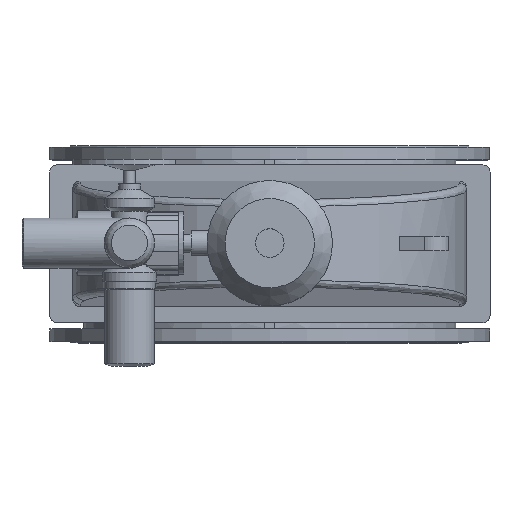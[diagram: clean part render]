
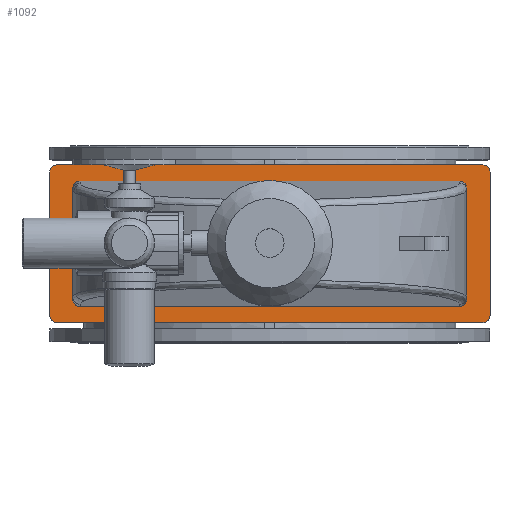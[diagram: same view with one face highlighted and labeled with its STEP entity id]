
A CAD part, top view. The second image highlights one B-rep face of the part: STEP entity #1092.
In plain terms, the highlighted planar face has unit normal (0, 0, 1).
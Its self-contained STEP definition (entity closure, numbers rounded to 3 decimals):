
#1092=ADVANCED_FACE('',(#4834,#4836),#4838,.T.);
#4834=FACE_BOUND('',#4835,.T.);
#4835=EDGE_LOOP('',(#9398,#9399,#9400,#9401,#9402,#9403,#9404,#9405));
#4836=FACE_BOUND('',#4837,.T.);
#4837=EDGE_LOOP('',(#9406,#9407,#9408,#9409,#9410,#9411,#9412,#9413));
#4838=PLANE('',#4839);
#4839=AXIS2_PLACEMENT_3D('',#4840,#4841,#4842);
#4840=CARTESIAN_POINT('',(0.,0.,1086.));
#4841=DIRECTION('',(0.,-0.,1.));
#4842=DIRECTION('',(0.,1.,0.));
#9398=ORIENTED_EDGE('',*,*,#10769,.F.);
#9399=ORIENTED_EDGE('',*,*,#10770,.T.);
#9400=ORIENTED_EDGE('',*,*,#10771,.F.);
#9401=ORIENTED_EDGE('',*,*,#10772,.T.);
#9402=ORIENTED_EDGE('',*,*,#10773,.F.);
#9403=ORIENTED_EDGE('',*,*,#10774,.T.);
#9404=ORIENTED_EDGE('',*,*,#10775,.F.);
#9405=ORIENTED_EDGE('',*,*,#10776,.T.);
#9406=ORIENTED_EDGE('',*,*,#10767,.F.);
#9407=ORIENTED_EDGE('',*,*,#10766,.F.);
#9408=ORIENTED_EDGE('',*,*,#10768,.F.);
#9409=ORIENTED_EDGE('',*,*,#10743,.F.);
#9410=ORIENTED_EDGE('',*,*,#10777,.F.);
#9411=ORIENTED_EDGE('',*,*,#10778,.F.);
#9412=ORIENTED_EDGE('',*,*,#10779,.F.);
#9413=ORIENTED_EDGE('',*,*,#10736,.F.);
#10736=EDGE_CURVE('',#11692,#11694,#11695,.T.);
#10743=EDGE_CURVE('',#11704,#11702,#11706,.T.);
#10766=EDGE_CURVE('',#11741,#11739,#11743,.T.);
#10767=EDGE_CURVE('',#11739,#11692,#11744,.F.);
#10768=EDGE_CURVE('',#11702,#11741,#11745,.T.);
#10769=EDGE_CURVE('',#11746,#11747,#11748,.F.);
#10770=EDGE_CURVE('',#11746,#11749,#11750,.T.);
#10771=EDGE_CURVE('',#11751,#11749,#11752,.F.);
#10772=EDGE_CURVE('',#11751,#11753,#11754,.T.);
#10773=EDGE_CURVE('',#11755,#11753,#11756,.F.);
#10774=EDGE_CURVE('',#11755,#11757,#11758,.T.);
#10775=EDGE_CURVE('',#11759,#11757,#11760,.F.);
#10776=EDGE_CURVE('',#11759,#11747,#11761,.T.);
#10777=EDGE_CURVE('',#11762,#11704,#11763,.F.);
#10778=EDGE_CURVE('',#11764,#11762,#11765,.T.);
#10779=EDGE_CURVE('',#11694,#11764,#11766,.T.);
#11692=VERTEX_POINT('',#14588);
#11694=VERTEX_POINT('',#14592);
#11695=LINE('',#14593,#14594);
#11702=VERTEX_POINT('',#14613);
#11704=VERTEX_POINT('',#14617);
#11706=LINE('',#14621,#14622);
#11739=VERTEX_POINT('',#14704);
#11741=VERTEX_POINT('',#14708);
#11743=LINE('',#14712,#14713);
#11744=(BOUNDED_CURVE()B_SPLINE_CURVE(3,
(#14715,#14716,#14717,#14718),
.UNSPECIFIED.,.F.,.F.)B_SPLINE_CURVE_WITH_KNOTS((4,4),
(0.,1.),
.UNSPECIFIED.)CURVE()GEOMETRIC_REPRESENTATION_ITEM()RATIONAL_B_SPLINE_CURVE((1.,
0.805,0.805,1.))REPRESENTATION_ITEM(''));
#11745=(BOUNDED_CURVE()B_SPLINE_CURVE(3,
(#14719,#14720,#14721,#14722),
.UNSPECIFIED.,.F.,.F.)B_SPLINE_CURVE_WITH_KNOTS((4,4),
(0.,1.),
.UNSPECIFIED.)CURVE()GEOMETRIC_REPRESENTATION_ITEM()RATIONAL_B_SPLINE_CURVE((1.,
0.805,0.805,1.))REPRESENTATION_ITEM(''));
#11746=VERTEX_POINT('',#14723);
#11747=VERTEX_POINT('',#14724);
#11748=CIRCLE('',#14725,20.);
#11749=VERTEX_POINT('',#14729);
#11750=LINE('',#14730,#14731);
#11751=VERTEX_POINT('',#14733);
#11752=CIRCLE('',#14734,20.);
#11753=VERTEX_POINT('',#14738);
#11754=LINE('',#14739,#14740);
#11755=VERTEX_POINT('',#14742);
#11756=CIRCLE('',#14743,20.);
#11757=VERTEX_POINT('',#14747);
#11758=LINE('',#14748,#14749);
#11759=VERTEX_POINT('',#14751);
#11760=CIRCLE('',#14752,20.);
#11761=LINE('',#14756,#14757);
#11762=VERTEX_POINT('',#14759);
#11763=(BOUNDED_CURVE()B_SPLINE_CURVE(3,
(#14760,#14761,#14762,#14763),
.UNSPECIFIED.,.F.,.F.)B_SPLINE_CURVE_WITH_KNOTS((4,4),
(0.,1.),
.UNSPECIFIED.)CURVE()GEOMETRIC_REPRESENTATION_ITEM()RATIONAL_B_SPLINE_CURVE((1.,
0.805,0.805,1.))REPRESENTATION_ITEM(''));
#11764=VERTEX_POINT('',#14764);
#11765=LINE('',#14765,#14766);
#11766=(BOUNDED_CURVE()B_SPLINE_CURVE(3,
(#14768,#14769,#14770,#14771),
.UNSPECIFIED.,.F.,.F.)B_SPLINE_CURVE_WITH_KNOTS((4,4),
(0.,1.),
.UNSPECIFIED.)CURVE()GEOMETRIC_REPRESENTATION_ITEM()RATIONAL_B_SPLINE_CURVE((1.,
0.805,0.805,1.))REPRESENTATION_ITEM(''));
#14588=CARTESIAN_POINT('',(550.,-154.924,1086.));
#14592=CARTESIAN_POINT('',(550.,154.924,1086.));
#14593=CARTESIAN_POINT('',(550.,-154.924,1086.));
#14594=VECTOR('',#14595,1.);
#14595=DIRECTION('',(0.,1.,0.));
#14613=CARTESIAN_POINT('',(-550.,-154.924,1086.));
#14617=CARTESIAN_POINT('',(-550.,154.924,1086.));
#14621=CARTESIAN_POINT('',(-550.,154.924,1086.));
#14622=VECTOR('',#14623,1.);
#14623=DIRECTION('',(0.,-1.,0.));
#14704=CARTESIAN_POINT('',(530.,-175.,1086.));
#14708=CARTESIAN_POINT('',(-530.,-175.,1086.));
#14712=CARTESIAN_POINT('',(-530.,-175.,1086.));
#14713=VECTOR('',#14714,1.);
#14714=DIRECTION('',(1.,0.,0.));
#14715=CARTESIAN_POINT('',(550.,-154.924,1086.));
#14716=CARTESIAN_POINT('',(550.,-166.684,1086.));
#14717=CARTESIAN_POINT('',(541.716,-175.,1086.));
#14718=CARTESIAN_POINT('',(530.,-175.,1086.));
#14719=CARTESIAN_POINT('',(-550.,-154.924,1086.));
#14720=CARTESIAN_POINT('',(-550.,-166.684,1086.));
#14721=CARTESIAN_POINT('',(-541.716,-175.,1086.));
#14722=CARTESIAN_POINT('',(-530.,-175.,1086.));
#14723=CARTESIAN_POINT('',(-595.,-220.,1086.));
#14724=CARTESIAN_POINT('',(-615.,-200.,1086.));
#14725=AXIS2_PLACEMENT_3D('',#14726,#14727,#14728);
#14726=CARTESIAN_POINT('',(-595.,-200.,1086.));
#14727=DIRECTION('',(0.,-0.,1.));
#14728=DIRECTION('',(-1.,0.,0.));
#14729=CARTESIAN_POINT('',(595.,-220.,1086.));
#14730=CARTESIAN_POINT('',(-595.,-220.,1086.));
#14731=VECTOR('',#14732,1.);
#14732=DIRECTION('',(1.,0.,0.));
#14733=CARTESIAN_POINT('',(615.,-200.,1086.));
#14734=AXIS2_PLACEMENT_3D('',#14735,#14736,#14737);
#14735=CARTESIAN_POINT('',(595.,-200.,1086.));
#14736=DIRECTION('',(0.,-0.,1.));
#14737=DIRECTION('',(0.,-1.,0.));
#14738=CARTESIAN_POINT('',(615.,200.,1086.));
#14739=CARTESIAN_POINT('',(615.,-200.,1086.));
#14740=VECTOR('',#14741,1.);
#14741=DIRECTION('',(0.,1.,0.));
#14742=CARTESIAN_POINT('',(595.,220.,1086.));
#14743=AXIS2_PLACEMENT_3D('',#14744,#14745,#14746);
#14744=CARTESIAN_POINT('',(595.,200.,1086.));
#14745=DIRECTION('',(0.,-0.,1.));
#14746=DIRECTION('',(1.,0.,0.));
#14747=CARTESIAN_POINT('',(-595.,220.,1086.));
#14748=CARTESIAN_POINT('',(595.,220.,1086.));
#14749=VECTOR('',#14750,1.);
#14750=DIRECTION('',(-1.,0.,0.));
#14751=CARTESIAN_POINT('',(-615.,200.,1086.));
#14752=AXIS2_PLACEMENT_3D('',#14753,#14754,#14755);
#14753=CARTESIAN_POINT('',(-595.,200.,1086.));
#14754=DIRECTION('',(0.,-0.,1.));
#14755=DIRECTION('',(0.,1.,0.));
#14756=CARTESIAN_POINT('',(-615.,200.,1086.));
#14757=VECTOR('',#14758,1.);
#14758=DIRECTION('',(0.,-1.,0.));
#14759=CARTESIAN_POINT('',(-530.,175.,1086.));
#14760=CARTESIAN_POINT('',(-550.,154.924,1086.));
#14761=CARTESIAN_POINT('',(-550.,166.684,1086.));
#14762=CARTESIAN_POINT('',(-541.716,175.,1086.));
#14763=CARTESIAN_POINT('',(-530.,175.,1086.));
#14764=CARTESIAN_POINT('',(530.,175.,1086.));
#14765=CARTESIAN_POINT('',(530.,175.,1086.));
#14766=VECTOR('',#14767,1.);
#14767=DIRECTION('',(-1.,0.,0.));
#14768=CARTESIAN_POINT('',(550.,154.924,1086.));
#14769=CARTESIAN_POINT('',(550.,166.684,1086.));
#14770=CARTESIAN_POINT('',(541.716,175.,1086.));
#14771=CARTESIAN_POINT('',(530.,175.,1086.));
